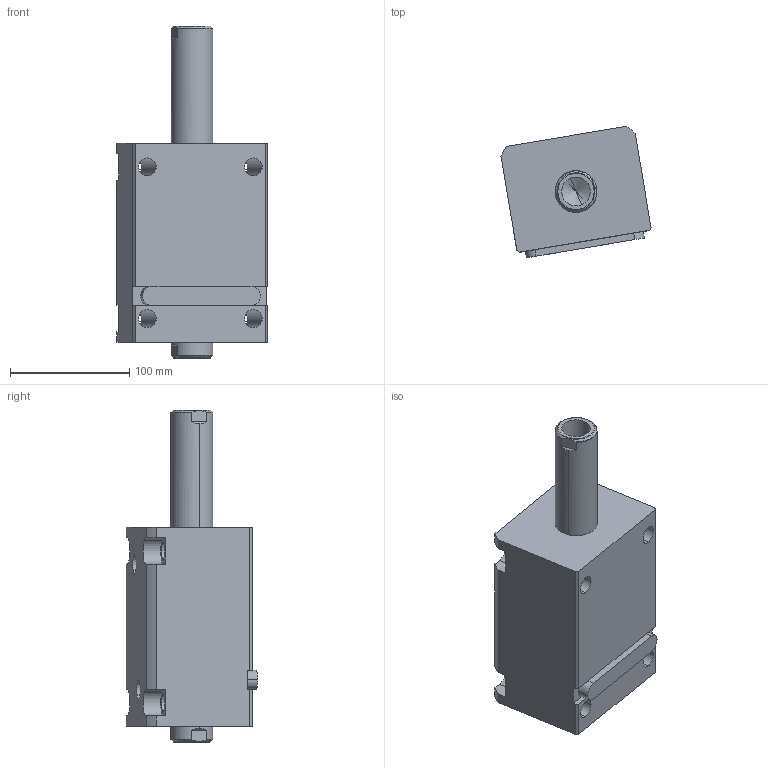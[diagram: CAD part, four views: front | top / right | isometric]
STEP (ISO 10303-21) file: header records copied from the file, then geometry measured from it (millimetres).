
FILE_DESCRIPTION (( 'STEP AP214' ), '1' );
FILE_NAME ('chtb-lw63x85n_asm.STEP', '2018-05-03T08:04:31', ( 'Windows' ), ( 'Microsoft' ), 'SwSTEP 2.0', 'SolidWorks 2015', '' );
FILE_SCHEMA (( 'AUTOMOTIVE_DESIGN' ));
Length unit declared in the file: millimetre
Products named in the file (5): chtb-lw63x85n_asm; CHTB-SW63X85NHSG; CHTB-LW63X85NBT; CHTB-LA63PJ; CHTB-63QG
Assembly tree (4 placements, depth 2):
  chtb-lw63x85n_asm
    CHTB-63QG
    CHTB-LA63PJ
    CHTB-LW63X85NBT
    CHTB-SW63X85NHSG
Bounding box: 125.61 x 109.97 x 278 mm (x, y, z)
Volume: 1515186 mm3; surface area: 199876.3 mm2
Topology: 4 solids, 4 shells, 194 faces, 563 edges, 381 vertices
Faces by surface type: cylinder 104, plane 50, cone 16, bspline 12, torus 12
Entity records: 18887 total; most frequent: CARTESIAN_POINT 13868, ORIENTED_EDGE 1110, DIRECTION 876, EDGE_CURVE 555, VERTEX_POINT 381, AXIS2_PLACEMENT_3D 336, EDGE_LOOP 222, LINE 204
